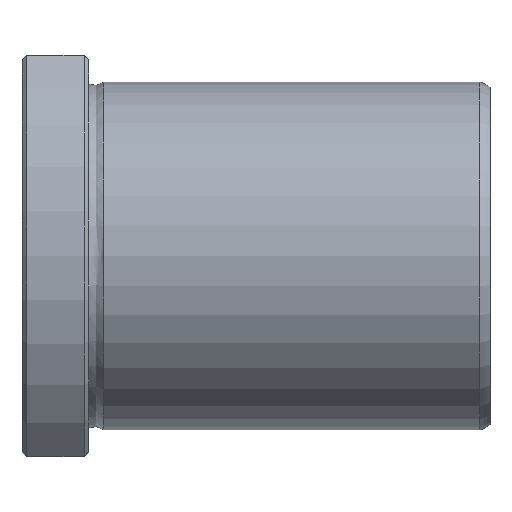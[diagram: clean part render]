
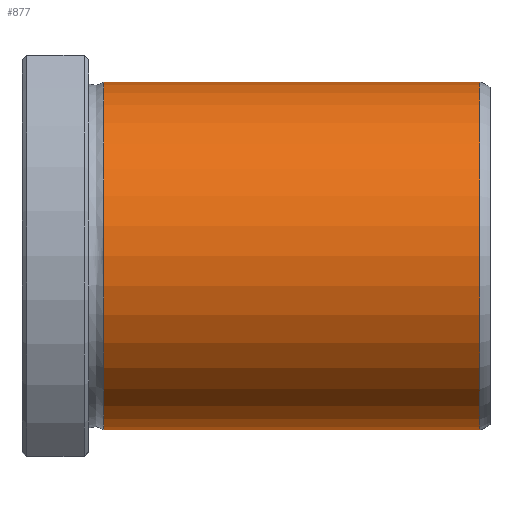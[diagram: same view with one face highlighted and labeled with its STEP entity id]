
A CAD part, top view. The second image highlights one B-rep face of the part: STEP entity #877.
In plain terms, the highlighted cylindrical face has radius 26 mm (diameter 52 mm), a full revolution.
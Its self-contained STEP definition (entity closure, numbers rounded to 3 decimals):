
#843=CARTESIAN_POINT('',(68.502,0.0,26.));
#844=VERTEX_POINT('',#843);
#845=CARTESIAN_POINT('',(68.502,0.0,0.0));
#846=DIRECTION('',(-1.0,0.0,0.0));
#847=DIRECTION('',(0.0,0.0,1.0));
#848=AXIS2_PLACEMENT_3D('',#845,#846,#847);
#849=CIRCLE('',#848,26.);
#850=EDGE_CURVE('',#844,#844,#849,.T.);
#858=CARTESIAN_POINT('',(40.362,0.0,0.0));
#859=DIRECTION('',(-1.0,0.0,0.0));
#860=DIRECTION('',(0.0,0.0,1.0));
#861=AXIS2_PLACEMENT_3D('',#858,#859,#860);
#862=CYLINDRICAL_SURFACE('',#861,26.);
#863=CARTESIAN_POINT('',(12.223,0.0,26.));
#864=VERTEX_POINT('',#863);
#865=CARTESIAN_POINT('',(12.223,0.0,0.0));
#866=DIRECTION('',(-1.0,0.0,0.0));
#867=DIRECTION('',(0.0,0.0,1.0));
#868=AXIS2_PLACEMENT_3D('',#865,#866,#867);
#869=CIRCLE('',#868,26.);
#870=EDGE_CURVE('',#864,#864,#869,.T.);
#871=ORIENTED_EDGE('',*,*,#870,.F.);
#872=EDGE_LOOP('',(#871));
#873=FACE_OUTER_BOUND('',#872,.T.);
#874=ORIENTED_EDGE('',*,*,#850,.T.);
#875=EDGE_LOOP('',(#874));
#876=FACE_BOUND('',#875,.T.);
#877=ADVANCED_FACE('',(#873,#876),#862,.T.);
